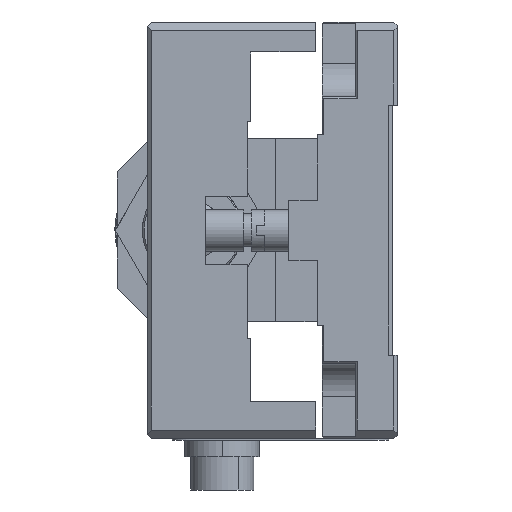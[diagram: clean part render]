
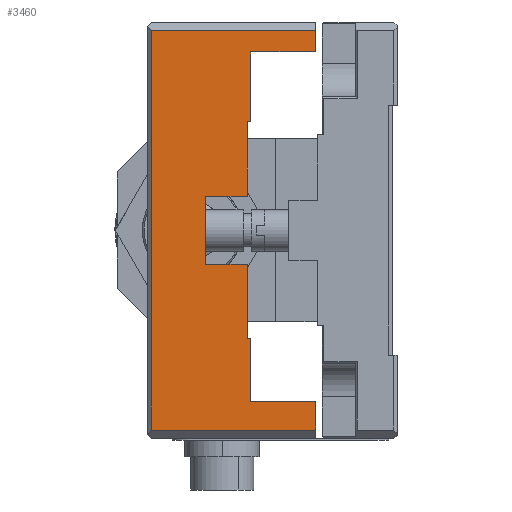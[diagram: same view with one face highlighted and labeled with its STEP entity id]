
A CAD part, left-side view. The second image highlights one B-rep face of the part: STEP entity #3460.
In plain terms, the highlighted planar face has unit normal (-1, 0, 0).
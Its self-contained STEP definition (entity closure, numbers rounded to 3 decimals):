
#74 = VERTEX_POINT ( 'NONE', #19918 ) ;
#142 = VERTEX_POINT ( 'NONE', #19863 ) ;
#1015 = ORIENTED_EDGE ( 'NONE', *, *, #6390, .F. ) ;
#1016 = ORIENTED_EDGE ( 'NONE', *, *, #6231, .F. ) ;
#1017 = ORIENTED_EDGE ( 'NONE', *, *, #6252, .F. ) ;
#1018 = ORIENTED_EDGE ( 'NONE', *, *, #6211, .F. ) ;
#1019 = ORIENTED_EDGE ( 'NONE', *, *, #6318, .F. ) ;
#1020 = ORIENTED_EDGE ( 'NONE', *, *, #6280, .F. ) ;
#1034 = VERTEX_POINT ( 'NONE', #2450 ) ;
#1059 = VERTEX_POINT ( 'NONE', #2461 ) ;
#1073 = VERTEX_POINT ( 'NONE', #2470 ) ;
#1085 = VERTEX_POINT ( 'NONE', #2482 ) ;
#1088 = VERTEX_POINT ( 'NONE', #2484 ) ;
#1090 = VERTEX_POINT ( 'NONE', #2481 ) ;
#1112 = VERTEX_POINT ( 'NONE', #2495 ) ;
#1113 = VERTEX_POINT ( 'NONE', #2500 ) ;
#1118 = VERTEX_POINT ( 'NONE', #2499 ) ;
#1216 = VERTEX_POINT ( 'NONE', #2583 ) ;
#1266 = VERTEX_POINT ( 'NONE', #2633 ) ;
#2450 = CARTESIAN_POINT ( 'NONE',  ( -19.047, -2.084, -10.3 ) ) ;
#2461 = CARTESIAN_POINT ( 'NONE',  ( -19.047, 2.016, -2.05 ) ) ;
#2470 = CARTESIAN_POINT ( 'NONE',  ( -19.047, 2.016, 6.5 ) ) ;
#2481 = CARTESIAN_POINT ( 'NONE',  ( -19.047, -2.084, 12. ) ) ;
#2482 = CARTESIAN_POINT ( 'NONE',  ( -19.047, 1.816, -10.3 ) ) ;
#2484 = CARTESIAN_POINT ( 'NONE',  ( -19.047, -2.084, 10.7 ) ) ;
#2495 = CARTESIAN_POINT ( 'NONE',  ( -19.047, 2.016, -6.5 ) ) ;
#2499 = CARTESIAN_POINT ( 'NONE',  ( -19.047, 4.516, 2.05 ) ) ;
#2500 = CARTESIAN_POINT ( 'NONE',  ( -19.047, 1.816, 6.5 ) ) ;
#2583 = CARTESIAN_POINT ( 'NONE',  ( -19.047, 1.816, -6.5 ) ) ;
#2633 = CARTESIAN_POINT ( 'NONE',  ( -19.047, 2.016, 2.05 ) ) ;
#2801 = CARTESIAN_POINT ( 'NONE',  ( -19.047, 4.516, -2.05 ) ) ;
#2859 = CARTESIAN_POINT ( 'NONE',  ( -19.047, -2.084, 0. ) ) ;
#2861 = PLANE ( 'NONE',  #4020 ) ;
#2863 = DIRECTION ( 'NONE',  ( 1., 0., 0. ) ) ;
#2864 = DIRECTION ( 'NONE',  ( 0., 0., -1. ) ) ;
#3397 = VERTEX_POINT ( 'NONE', #2801 ) ;
#3460 = ADVANCED_FACE ( 'NONE', ( #5647 ), #2861, .F. ) ;
#4020 = AXIS2_PLACEMENT_3D ( 'NONE', #2859, #2863, #2864 ) ;
#4231 = EDGE_CURVE ( 'NONE', #1112, #1216, #10920, .T. ) ;
#4240 = EDGE_CURVE ( 'NONE', #1059, #1112, #10931, .T. ) ;
#4245 = EDGE_CURVE ( 'NONE', #1216, #1085, #10940, .T. ) ;
#4284 = EDGE_CURVE ( 'NONE', #1090, #8424, #10985, .T. ) ;
#4286 = EDGE_CURVE ( 'NONE', #8425, #74, #10983, .T. ) ;
#4287 = EDGE_CURVE ( 'NONE', #8424, #8425, #10988, .T. ) ;
#5647 = FACE_OUTER_BOUND ( 'NONE', #20160, .T. ) ;
#6211 = EDGE_CURVE ( 'NONE', #1113, #1073, #11055, .T. ) ;
#6231 = EDGE_CURVE ( 'NONE', #1088, #142, #11091, .T. ) ;
#6252 = EDGE_CURVE ( 'NONE', #142, #1113, #11116, .T. ) ;
#6280 = EDGE_CURVE ( 'NONE', #1266, #1118, #11157, .T. ) ;
#6281 = EDGE_CURVE ( 'NONE', #1118, #3397, #11155, .T. ) ;
#6318 = EDGE_CURVE ( 'NONE', #1073, #1266, #11236, .T. ) ;
#6339 = EDGE_CURVE ( 'NONE', #3397, #1059, #11272, .T. ) ;
#6390 = EDGE_CURVE ( 'NONE', #1090, #1088, #11391, .T. ) ;
#8406 = ORIENTED_EDGE ( 'NONE', *, *, #6339, .F. ) ;
#8424 = VERTEX_POINT ( 'NONE', #14087 ) ;
#8425 = VERTEX_POINT ( 'NONE', #14083 ) ;
#8432 = ORIENTED_EDGE ( 'NONE', *, *, #4231, .F. ) ;
#8434 = ORIENTED_EDGE ( 'NONE', *, *, #4245, .F. ) ;
#8488 = ORIENTED_EDGE ( 'NONE', *, *, #4286, .T. ) ;
#8489 = ORIENTED_EDGE ( 'NONE', *, *, #4240, .F. ) ;
#8491 = ORIENTED_EDGE ( 'NONE', *, *, #12000, .F. ) ;
#8493 = ORIENTED_EDGE ( 'NONE', *, *, #6281, .F. ) ;
#8496 = ORIENTED_EDGE ( 'NONE', *, *, #4287, .T. ) ;
#8500 = ORIENTED_EDGE ( 'NONE', *, *, #4284, .T. ) ;
#8501 = ORIENTED_EDGE ( 'NONE', *, *, #11996, .F. ) ;
#10920 = LINE ( 'NONE', #18683, #10922 ) ;
#10922 = VECTOR ( 'NONE', #18674, 1000. ) ;
#10931 = LINE ( 'NONE', #18735, #10936 ) ;
#10936 = VECTOR ( 'NONE', #18742, 1000. ) ;
#10940 = LINE ( 'NONE', #18760, #10944 ) ;
#10944 = VECTOR ( 'NONE', #18771, 1000. ) ;
#10982 = VECTOR ( 'NONE', #18989, 1000. ) ;
#10983 = LINE ( 'NONE', #18995, #10989 ) ;
#10985 = LINE ( 'NONE', #18984, #10982 ) ;
#10988 = LINE ( 'NONE', #18999, #10991 ) ;
#10989 = VECTOR ( 'NONE', #18997, 1000. ) ;
#10991 = VECTOR ( 'NONE', #19002, 1000. ) ;
#11055 = LINE ( 'NONE', #19659, #11059 ) ;
#11059 = VECTOR ( 'NONE', #19655, 1000. ) ;
#11091 = LINE ( 'NONE', #19701, #11095 ) ;
#11095 = VECTOR ( 'NONE', #19700, 1000. ) ;
#11116 = LINE ( 'NONE', #19782, #11119 ) ;
#11119 = VECTOR ( 'NONE', #19783, 1000. ) ;
#11155 = LINE ( 'NONE', #15542, #11161 ) ;
#11157 = LINE ( 'NONE', #15546, #11159 ) ;
#11159 = VECTOR ( 'NONE', #15548, 1000. ) ;
#11161 = VECTOR ( 'NONE', #15549, 1000. ) ;
#11236 = LINE ( 'NONE', #15652, #11239 ) ;
#11239 = VECTOR ( 'NONE', #15653, 1000. ) ;
#11272 = LINE ( 'NONE', #15706, #11276 ) ;
#11276 = VECTOR ( 'NONE', #15707, 1000. ) ;
#11391 = LINE ( 'NONE', #15834, #11394 ) ;
#11394 = VECTOR ( 'NONE', #15835, 1000. ) ;
#11996 = EDGE_CURVE ( 'NONE', #1034, #74, #19427, .T. ) ;
#12000 = EDGE_CURVE ( 'NONE', #1085, #1034, #19439, .T. ) ;
#14083 = CARTESIAN_POINT ( 'NONE',  ( -19.047, 7.766, -12. ) ) ;
#14087 = CARTESIAN_POINT ( 'NONE',  ( -19.047, 7.766, 12. ) ) ;
#14386 = CARTESIAN_POINT ( 'NONE',  ( -19.047, -2.084, -10.3 ) ) ;
#14407 = DIRECTION ( 'NONE',  ( 0., 0., -1. ) ) ;
#14413 = CARTESIAN_POINT ( 'NONE',  ( -19.047, 1.816, -10.3 ) ) ;
#14427 = DIRECTION ( 'NONE',  ( 0., -1., 0. ) ) ;
#15542 = CARTESIAN_POINT ( 'NONE',  ( -19.047, 4.516, 2.05 ) ) ;
#15546 = CARTESIAN_POINT ( 'NONE',  ( -19.047, 2.016, 2.05 ) ) ;
#15548 = DIRECTION ( 'NONE',  ( 0., 1., 0. ) ) ;
#15549 = DIRECTION ( 'NONE',  ( 0., 0., -1. ) ) ;
#15652 = CARTESIAN_POINT ( 'NONE',  ( -19.047, 2.016, 6.5 ) ) ;
#15653 = DIRECTION ( 'NONE',  ( 0., 0., -1. ) ) ;
#15706 = CARTESIAN_POINT ( 'NONE',  ( -19.047, 4.516, -2.05 ) ) ;
#15707 = DIRECTION ( 'NONE',  ( 0., -1., 0. ) ) ;
#15834 = CARTESIAN_POINT ( 'NONE',  ( -19.047, -2.084, 12.5 ) ) ;
#15835 = DIRECTION ( 'NONE',  ( 0., 0., -1. ) ) ;
#18674 = DIRECTION ( 'NONE',  ( 0., -1., 0. ) ) ;
#18683 = CARTESIAN_POINT ( 'NONE',  ( -19.047, 2.016, -6.5 ) ) ;
#18735 = CARTESIAN_POINT ( 'NONE',  ( -19.047, 2.016, -2.05 ) ) ;
#18742 = DIRECTION ( 'NONE',  ( 0., 0., -1. ) ) ;
#18760 = CARTESIAN_POINT ( 'NONE',  ( -19.047, 1.816, -6.5 ) ) ;
#18771 = DIRECTION ( 'NONE',  ( 0., 0., -1. ) ) ;
#18984 = CARTESIAN_POINT ( 'NONE',  ( -19.047, -2.084, 12. ) ) ;
#18989 = DIRECTION ( 'NONE',  ( 0., 1., 0. ) ) ;
#18995 = CARTESIAN_POINT ( 'NONE',  ( -19.047, -2.084, -12. ) ) ;
#18997 = DIRECTION ( 'NONE',  ( 0., -1., 0. ) ) ;
#18999 = CARTESIAN_POINT ( 'NONE',  ( -19.047, 7.766, 0. ) ) ;
#19002 = DIRECTION ( 'NONE',  ( 0., 0., -1. ) ) ;
#19427 = LINE ( 'NONE', #14386, #19435 ) ;
#19435 = VECTOR ( 'NONE', #14407, 1000. ) ;
#19439 = LINE ( 'NONE', #14413, #19443 ) ;
#19443 = VECTOR ( 'NONE', #14427, 1000. ) ;
#19655 = DIRECTION ( 'NONE',  ( 0., 1., 0. ) ) ;
#19659 = CARTESIAN_POINT ( 'NONE',  ( -19.047, 1.816, 6.5 ) ) ;
#19700 = DIRECTION ( 'NONE',  ( 0., 1., 0. ) ) ;
#19701 = CARTESIAN_POINT ( 'NONE',  ( -19.047, -2.084, 10.7 ) ) ;
#19782 = CARTESIAN_POINT ( 'NONE',  ( -19.047, 1.816, 10.7 ) ) ;
#19783 = DIRECTION ( 'NONE',  ( 0., 0., -1. ) ) ;
#19863 = CARTESIAN_POINT ( 'NONE',  ( -19.047, 1.816, 10.7 ) ) ;
#19918 = CARTESIAN_POINT ( 'NONE',  ( -19.047, -2.084, -12. ) ) ;
#20160 = EDGE_LOOP ( 'NONE', ( #8500, #8496, #8488, #8501, #8491, #8434, #8432, #8489, #8406, #8493, #1020, #1019, #1018, #1017, #1016, #1015 ) ) ;
